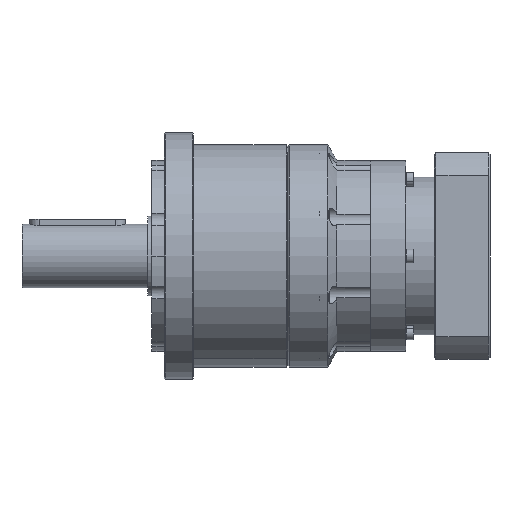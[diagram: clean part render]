
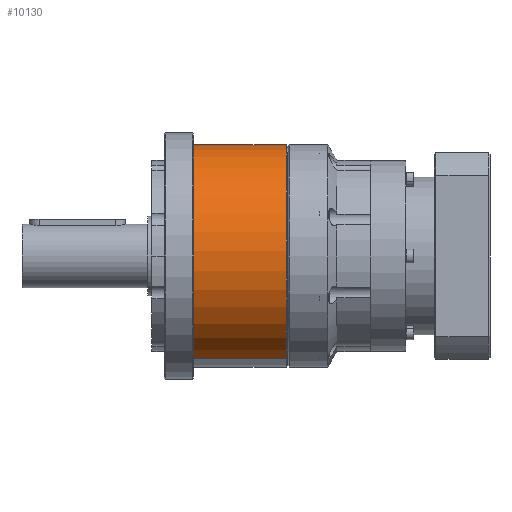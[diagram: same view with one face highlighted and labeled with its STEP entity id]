
A CAD part, front view. The second image highlights one B-rep face of the part: STEP entity #10130.
In plain terms, the highlighted cylindrical face has radius 70 mm (diameter 140 mm), a partial arc.
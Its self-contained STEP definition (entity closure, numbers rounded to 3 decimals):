
#4687 = CARTESIAN_POINT ( 'NONE',  ( 0., 1., 70. ) ) ;
#4707 = CARTESIAN_POINT ( 'NONE',  ( 0., 60.5, 70. ) ) ;
#4711 = DIRECTION ( 'NONE',  ( 0., 0., -1. ) ) ;
#4712 = DIRECTION ( 'NONE',  ( 0., -1., 0. ) ) ;
#4715 = CARTESIAN_POINT ( 'NONE',  ( 0., 1., 0. ) ) ;
#4719 = AXIS2_PLACEMENT_3D ( 'NONE', #4715, #4712, #4711 ) ;
#4727 = CIRCLE ( 'NONE', #4719, 70. ) ;
#4732 = LINE ( 'NONE', #4781, #4780 ) ;
#4754 = CARTESIAN_POINT ( 'NONE',  ( 0., 60.5, -70. ) ) ;
#4777 = LINE ( 'NONE', #4828, #4826 ) ;
#4779 = DIRECTION ( 'NONE',  ( 0., -1., 0. ) ) ;
#4780 = VECTOR ( 'NONE', #4779, 1000. ) ;
#4781 = CARTESIAN_POINT ( 'NONE',  ( 0., -8.026, 70. ) ) ;
#4816 = DIRECTION ( 'NONE',  ( 0., 0., -1. ) ) ;
#4817 = DIRECTION ( 'NONE',  ( 0., -1., 0. ) ) ;
#4818 = CARTESIAN_POINT ( 'NONE',  ( 0., 60.5, 0. ) ) ;
#4821 = CIRCLE ( 'NONE', #4824, 70. ) ;
#4824 = AXIS2_PLACEMENT_3D ( 'NONE', #4818, #4817, #4816 ) ;
#4825 = DIRECTION ( 'NONE',  ( 0., -1., 0. ) ) ;
#4826 = VECTOR ( 'NONE', #4825, 1000. ) ;
#4828 = CARTESIAN_POINT ( 'NONE',  ( 0., -8.026, -70. ) ) ;
#6725 = CYLINDRICAL_SURFACE ( 'NONE', #6770, 70. ) ;
#6757 = DIRECTION ( 'NONE',  ( 0., 0., -1. ) ) ;
#6760 = DIRECTION ( 'NONE',  ( 0., -1., 0. ) ) ;
#6762 = FACE_OUTER_BOUND ( 'NONE', #9566, .T. ) ;
#6765 = CARTESIAN_POINT ( 'NONE',  ( 0., -8.026, 0. ) ) ;
#6770 = AXIS2_PLACEMENT_3D ( 'NONE', #6765, #6760, #6757 ) ;
#7458 = CARTESIAN_POINT ( 'NONE',  ( 0., 1., -70. ) ) ;
#8740 = ORIENTED_EDGE ( 'NONE', *, *, #9015, .T. ) ;
#8953 = VERTEX_POINT ( 'NONE', #4687 ) ;
#8960 = EDGE_CURVE ( 'NONE', #10497, #8953, #4727, .T. ) ;
#8974 = ORIENTED_EDGE ( 'NONE', *, *, #8960, .F. ) ;
#8984 = ORIENTED_EDGE ( 'NONE', *, *, #9010, .F. ) ;
#8989 = VERTEX_POINT ( 'NONE', #4707 ) ;
#8992 = VERTEX_POINT ( 'NONE', #4754 ) ;
#8993 = ORIENTED_EDGE ( 'NONE', *, *, #8996, .T. ) ;
#8996 = EDGE_CURVE ( 'NONE', #8989, #8953, #4732, .T. ) ;
#9010 = EDGE_CURVE ( 'NONE', #8992, #10497, #4777, .T. ) ;
#9015 = EDGE_CURVE ( 'NONE', #8992, #8989, #4821, .T. ) ;
#9566 = EDGE_LOOP ( 'NONE', ( #8740, #8993, #8974, #8984 ) ) ;
#10130 = ADVANCED_FACE ( 'NONE', ( #6762 ), #6725, .T. ) ;
#10497 = VERTEX_POINT ( 'NONE', #7458 ) ;
